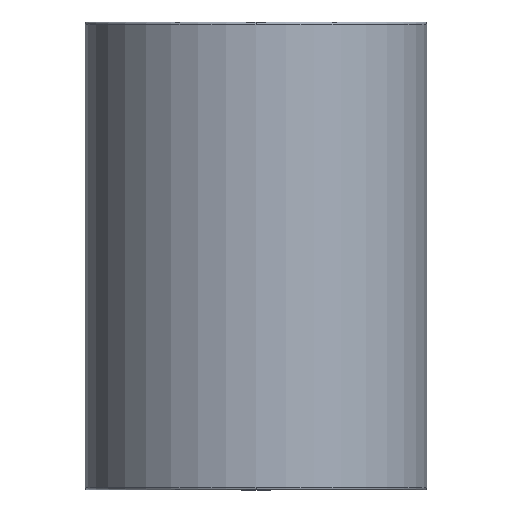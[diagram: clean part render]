
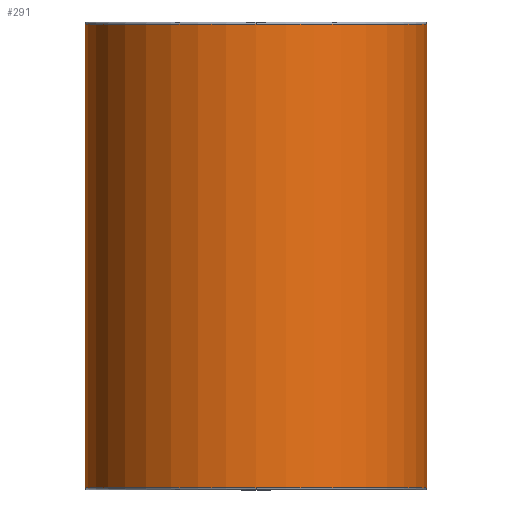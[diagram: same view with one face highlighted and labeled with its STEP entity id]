
A CAD part, front view. The second image highlights one B-rep face of the part: STEP entity #291.
In plain terms, the highlighted cylindrical face has radius 30.625 mm (diameter 61.25 mm), a partial arc.
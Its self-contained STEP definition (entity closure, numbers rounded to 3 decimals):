
#196=CARTESIAN_POINT('',(0.0,-30.625,48.1));
#197=VERTEX_POINT('',#196);
#223=CARTESIAN_POINT('',(-30.625,0.,48.1));
#224=VERTEX_POINT('',#223);
#232=CARTESIAN_POINT('',(0.0,0.,48.1));
#233=DIRECTION('',(0.0,0.0,1.0));
#234=DIRECTION('',(1.0,0.0,0.0));
#235=AXIS2_PLACEMENT_3D('',#232,#233,#234);
#236=CIRCLE('',#235,30.625);
#237=EDGE_CURVE('',#224,#197,#236,.T.);
#242=CARTESIAN_POINT('',(0.0,0.,6.5));
#243=DIRECTION('',(0.0,0.,1.0));
#244=DIRECTION('',(1.0,0.0,0.0));
#245=AXIS2_PLACEMENT_3D('',#242,#243,#244);
#246=CYLINDRICAL_SURFACE('',#245,30.625);
#247=CARTESIAN_POINT('',(30.625,0.,48.1));
#248=VERTEX_POINT('',#247);
#249=CARTESIAN_POINT('',(30.625,0.,-35.1));
#250=VERTEX_POINT('',#249);
#251=CARTESIAN_POINT('',(30.625,0.,48.1));
#252=DIRECTION('',(0.0,0.0,-1.0));
#253=VECTOR('',#252,83.2);
#254=LINE('',#251,#253);
#255=EDGE_CURVE('',#248,#250,#254,.T.);
#256=ORIENTED_EDGE('',*,*,#255,.F.);
#257=CARTESIAN_POINT('',(0.0,0.,48.1));
#258=DIRECTION('',(0.0,0.0,1.0));
#259=DIRECTION('',(1.0,0.0,0.0));
#260=AXIS2_PLACEMENT_3D('',#257,#258,#259);
#261=CIRCLE('',#260,30.625);
#262=EDGE_CURVE('',#197,#248,#261,.T.);
#263=ORIENTED_EDGE('',*,*,#262,.F.);
#264=ORIENTED_EDGE('',*,*,#237,.F.);
#265=CARTESIAN_POINT('',(-30.625,0.,-35.1));
#266=VERTEX_POINT('',#265);
#267=CARTESIAN_POINT('',(-30.625,0.,48.1));
#268=DIRECTION('',(0.0,0.0,-1.0));
#269=VECTOR('',#268,83.2);
#270=LINE('',#267,#269);
#271=EDGE_CURVE('',#224,#266,#270,.T.);
#272=ORIENTED_EDGE('',*,*,#271,.T.);
#273=CARTESIAN_POINT('',(0.0,-30.625,-35.1));
#274=VERTEX_POINT('',#273);
#275=CARTESIAN_POINT('',(0.0,0.,-35.1));
#276=DIRECTION('',(0.0,0.0,1.0));
#277=DIRECTION('',(1.0,0.0,0.0));
#278=AXIS2_PLACEMENT_3D('',#275,#276,#277);
#279=CIRCLE('',#278,30.625);
#280=EDGE_CURVE('',#266,#274,#279,.T.);
#281=ORIENTED_EDGE('',*,*,#280,.T.);
#282=CARTESIAN_POINT('',(0.0,0.,-35.1));
#283=DIRECTION('',(0.0,0.0,1.0));
#284=DIRECTION('',(1.0,0.0,0.0));
#285=AXIS2_PLACEMENT_3D('',#282,#283,#284);
#286=CIRCLE('',#285,30.625);
#287=EDGE_CURVE('',#274,#250,#286,.T.);
#288=ORIENTED_EDGE('',*,*,#287,.T.);
#289=EDGE_LOOP('',(#256,#263,#264,#272,#281,#288));
#290=FACE_OUTER_BOUND('',#289,.T.);
#291=ADVANCED_FACE('',(#290),#246,.T.);
